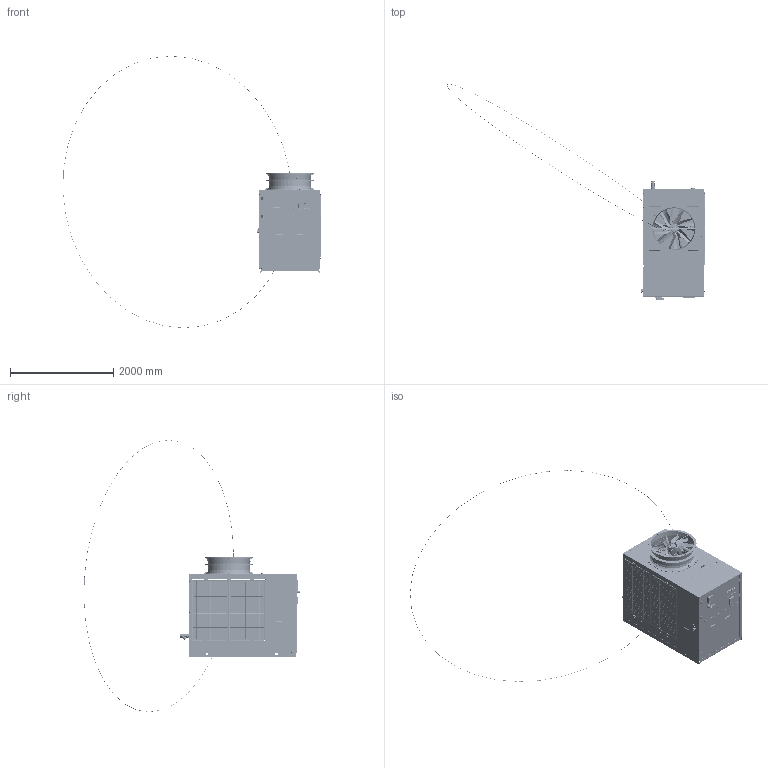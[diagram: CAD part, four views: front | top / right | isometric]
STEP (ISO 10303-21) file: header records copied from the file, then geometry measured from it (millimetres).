
FILE_DESCRIPTION (( 'STEP AP203' ), '1' );
FILE_NAME ('FRAME4-1V_REV_00.STEP', '2026-07-20T12:50:18', ( '' ), ( '' ), 'SwSTEP 2.0', 'SolidWorks 2023', '' );
FILE_SCHEMA (( 'CONFIG_CONTROL_DESIGN' ));
Length unit declared in the file: millimetre
Products named in the file (129): RG100000815_1; VM85000014_oa_22; VM80000033; HF80000089_1; HF80000005_1; RG100000862_oa_18; RG059001886; RG40004833_1; RG059000854_1; RG059001889; VM80000160_1; 92850152 (MOUSSE ADESIVA 3x20)_oa_27; VM55000566_oa_16; VM85000014_oa_13; RG80013220; VM40000338_1; RG059001896; RG700000057; VM800000034; RG05921567; RG059001876; RG100000862_oa_9; RG059001848; RG059001930; RG059001864; RG100000996; RG059001885; MA-N1-00009_000_CON ATTACCO DRITTO; RG059001845; VM40000096_1; VM800000020; ST-AT-00044_000; RG059001847; HF80000019_1; FI-AC-00071 - FILTRO Y 2 POLLICI; 1700778_1; RG05921566; VM85000014_oa_20; VM85000014_oa_14; VM85000014_oa_21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
Assembly tree (660 placements, depth 6):
  FRAME4-1V_REV_00
    40-MI-00700_CSBZA 110 (F4)
      CSBZA 110 (F4)(2)
        RG100000996  x6
          RG059001929
          VM800000021_1
          1700778_1
          RG059001930
          UT55000286_1
          92850152 (MOUSSE ADESIVA 3x20)_oa_0
        RG100000412_1
          RG059000854_1
          1700686_1
          VM800000021_1  x2
        RG100000986
          RG15024559_1
        RG100001065
          HF80000165_1  x4
            HF80000165_01_1
            HF80000165_02_1
          RG059001995
          RG05921590
          RG11029039_1
          HF40000794_1
          RG40012202_1  x2
          RG40004833_1
          VM80000365_1  x16
          HF80000006_1  x16
          HF40001521_1
          hf80000171_1  x4
        RG100000943
          RG100000946
            RG059001864
            hf80000080_1  x54
            RG059001865  x2
            RG80013220  x6
            RG059001866  x6
          RG100000862_oa_9
            VM55000566_oa_10
            RG059001883
            RG059001885
            HF80000006_1  x12
            HF80000005_1  x30
            RG059001886
            VM85000014_oa_11
            HF80000090  x8
            VM85000014_oa_13
            VM85000014_oa_14
            VM800000009  x8
            RG059001888
            HF80000089_1  x8
            VM800000037  x8
            VM55000566_oa_15
            VM55000566_oa_16
            VM55000566_oa_17
          RG100000862_oa_18
            VM55000566_oa_19
            RG059001883
            RG059001885
            HF80000006_1  x12
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Bounding box: 5000.9 x 4187.17 x 5270.72 mm (x, y, z)
Volume: 38689580 mm3; surface area: 55948608.9 mm2
Topology: 731 solids, 733 shells, 46240 faces, 122612 edges, 77620 vertices
Faces by surface type: plane 21072, cylinder 19667, torus 3010, bspline 1315, cone 680, sphere 496
Entity records: 502990 total; most frequent: CARTESIAN_POINT 134270, ORIENTED_EDGE 76346, DIRECTION 65991, EDGE_CURVE 38173, VERTEX_POINT 24465, AXIS2_PLACEMENT_3D 22069, LINE 21853, VECTOR 21853
